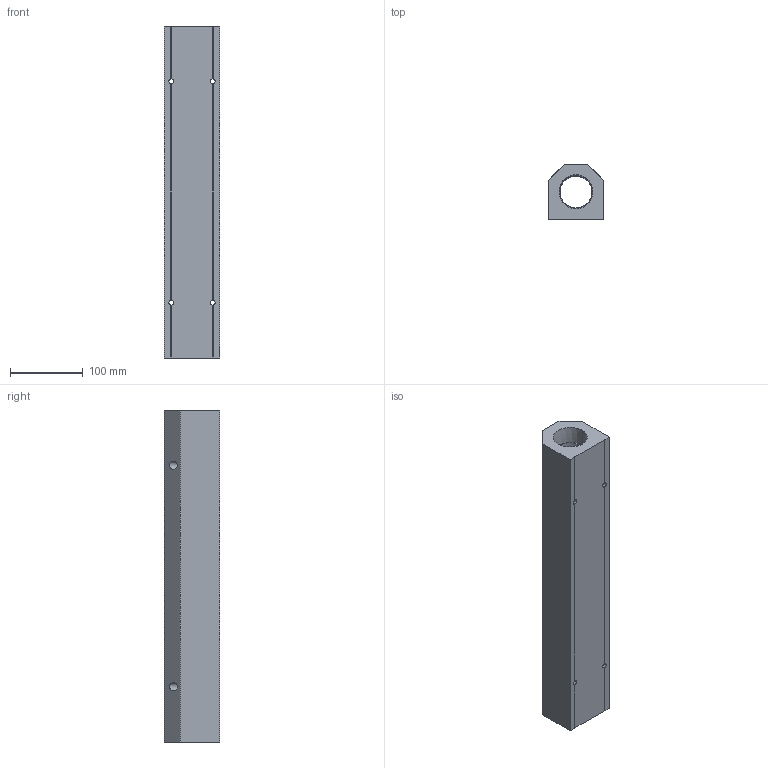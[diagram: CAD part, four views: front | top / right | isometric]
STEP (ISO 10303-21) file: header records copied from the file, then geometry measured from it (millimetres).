
FILE_DESCRIPTION (( 'STEP AP214' ), '1' );
FILE_NAME ('ALM8C-N6N24-457B.step', '2022-02-07T09:08:34', ( '' ), ( '' ), 'SwSTEP 2.0', 'SolidWorks 2020', '' );
FILE_SCHEMA (( 'AUTOMOTIVE_DESIGN' ));
Length unit declared in the file: millimetre
Products named in the file (1): ALM8C-N6N24-457B
Bounding box: 76.2 x 76.2 x 457 mm (x, y, z)
Volume: 1677089.3 mm3; surface area: 207330.9 mm2
Topology: 1 solids, 1 shells, 299 faces, 787 edges, 522 vertices
Faces by surface type: plane 199, bspline 62, cone 20, cylinder 18
Entity records: 16525 total; most frequent: CARTESIAN_POINT 6743, ORIENTED_EDGE 1574, DIRECTION 1159, EDGE_CURVE 787, LINE 579, VECTOR 579, VERTEX_POINT 522, EDGE_LOOP 357
